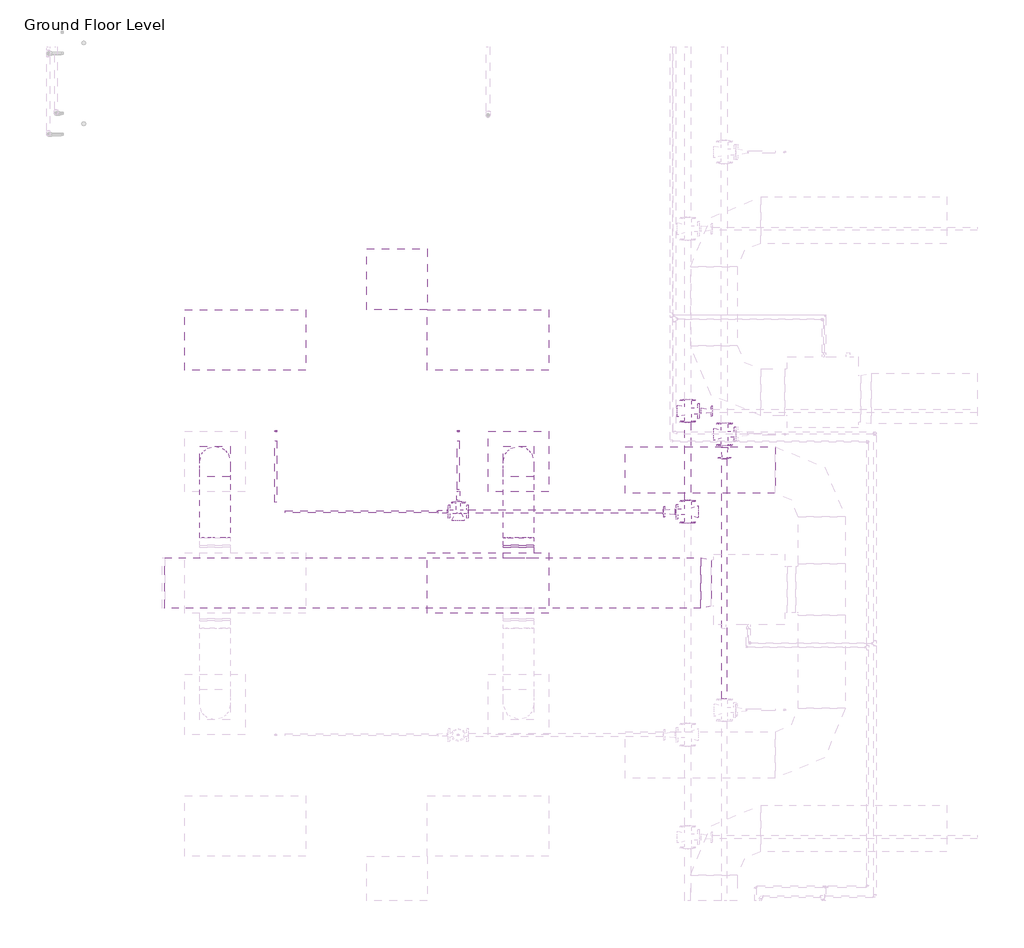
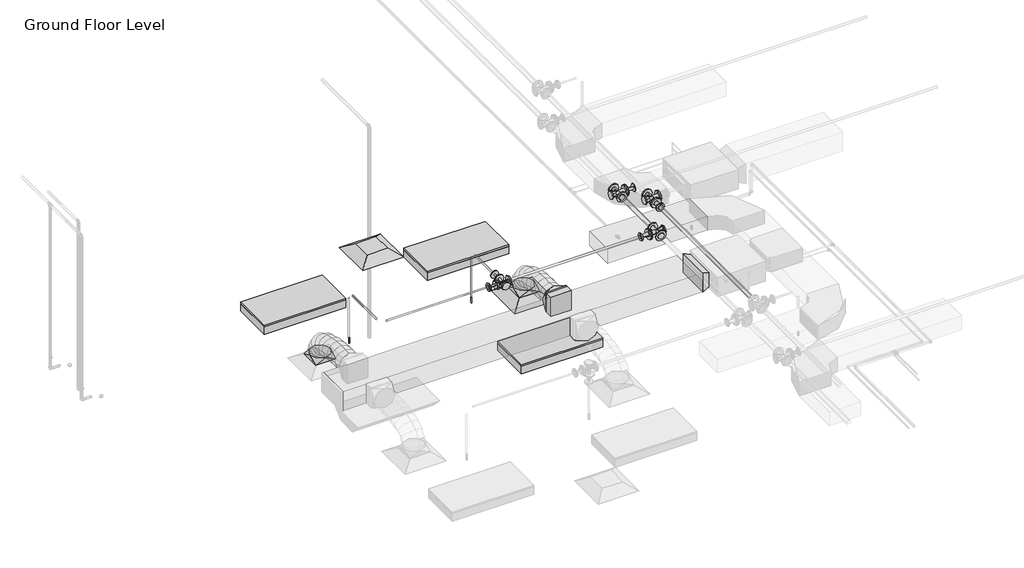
# One storey, part 61 of 74: 9 pipe fittings, 8 pipe segments, 5 duct fittings, 5 duct segments, 3 light fixtures, 2 air terminals, 2 fire suppression terminals.
"""IFC4 building model written with IfcOpenShell, lengths in millimetres."""

from ifc_helpers import new_model, si_unit, point, frame, frame_2d, origin, place, context, project, spatial, polyline, circle_curve, ellipse_curve, trimmed, segment, composite_curve, outline, extrude, transform, mapped, element, save
from ifc_brep_helpers import plane_surface, cylinder_surface, advanced_brep
from components import m_return_diffuser_600_x_600_face_300_x_300_connection_ff221211, m_rectangular_takeoff_standard_2be5eba1, m_rectangular_transition_angle_45_degree_2b595dfe, m_rectangular_to_round_transition_angle_45_degree_641efff0, m_sprinkler_dry_pendent_hosted_15_mm_dry_pendent_9bda8e11, m_troffer_light_parabolic_rectangular1_0600x1200mm_4_lamp_86473d4a, m_reducer_flanged_cs_class_150_standard_ccf252ad, m_reducer_flanged_cs_class_150_standard_3ab32b2b, m_reducer_flanged_cs_class_150_standard_a7631c35, m_tee_round_base_flanged_cs_class_150_standard_dd767e04, m_tee_round_base_flanged_cs_class_150_standard_7e5987a1

model = new_model("IFC4")

# Units and contexts
model_context = context("Model", 3, world=origin())
ifc_project = project(units=[si_unit("LENGTHUNIT", "METRE", prefix="MILLI")], contexts=[model_context])

# Site, building, storey
site = spatial("IfcSite", under=ifc_project)
building = spatial("IfcBuilding", under=site)
storey = spatial("IfcBuildingStorey", under=building, Name="Ground Floor Level", Elevation=900.0)

# Air terminals
placement = place(None, origin())
m_return_diffuser_600_x_600_face_300_x_300_connection_shape = m_return_diffuser_600_x_600_face_300_x_300_connection_ff221211(model_context)
element("IfcAirTerminal", 1, ObjectType="M_Return Diffuser : 600 x 600 Face 300 x 300 Connection", at=placement, inside=storey, context=model_context, shape_type="MappedRepresentation", body=[
    mapped(m_return_diffuser_600_x_600_face_300_x_300_connection_shape, transform((2762.7672395, 7135.2153534, 3650.0), x_axis=(1.0, 0.0, 0.0), y_axis=(0.0, 1.0, 0.0), z_axis=(0.0, 0.0, 1.0))),
])
element("IfcAirTerminal", 2, ObjectType="M_Supply Diffuser : 600 x 600 Face 300 x 300 Connection", at=placement, inside=storey, context=model_context, shape_type="MappedRepresentation", body=[
    mapped(m_return_diffuser_600_x_600_face_300_x_300_connection_shape, transform((3962.7672395, 5335.2153534, 3650.0), x_axis=(1.0, 0.0, 0.0), y_axis=(0.0, 1.0, 0.0), z_axis=(0.0, 0.0, 1.0))),
])

# Duct fittings
m_rectangular_takeoff_standard_shape = m_rectangular_takeoff_standard_2be5eba1(model_context)
element("IfcDuctFitting", 3, ObjectType="M_Rectangular Takeoff : Standard", at=placement, inside=storey, context=model_context, shape_type="MappedRepresentation", body=[
    mapped(m_rectangular_takeoff_standard_shape, transform((3962.7672395, 4385.0199167, 4099.9957478), x_axis=(0.0, 1.0, 0.0), y_axis=(1.0, 0.0, 0.0), z_axis=(0.0, 0.0, -1.0))),
])
m_rectangular_transition_angle_45_degree_shape = m_rectangular_transition_angle_45_degree_2b595dfe(model_context)
element("IfcDuctFitting", 4, ObjectType="M_Rectangular Transition - Angle : 45 Degree", at=placement, inside=storey, context=model_context, shape_type="MappedRepresentation", body=[
    mapped(m_rectangular_transition_angle_45_degree_shape, transform((5868.0139492, 4135.0199167, 4100.0), x_axis=(-1.0, 0.0, 0.0), y_axis=(0.0, -1.0, 0.0), z_axis=(0.0, 0.0, 1.0))),
])
m_rectangular_to_round_transition_angle_45_degree_shape = m_rectangular_to_round_transition_angle_45_degree_641efff0(model_context)
element("IfcDuctFitting", 5, ObjectType="M_Rectangular to Round Transition - Angle : 45 Degree", at=placement, inside=storey, context=model_context, shape_type="MappedRepresentation", body=[
    mapped(m_rectangular_to_round_transition_angle_45_degree_shape, transform((962.7672395, 5335.2153534, 3751.6), x_axis=(0.0, 0.0, 1.0), y_axis=(-1.0, 0.0, 0.0), z_axis=(0.0, -1.0, 0.0))),
])
element("IfcDuctFitting", 6, ObjectType="M_Rectangular to Round Transition - Angle : 45 Degree", at=placement, inside=storey, context=model_context, shape_type="MappedRepresentation", body=[
    mapped(m_rectangular_to_round_transition_angle_45_degree_shape, transform((3962.7672395, 5335.2153534, 3751.6), x_axis=(0.0, 0.0, 1.0), y_axis=(-1.0, 0.0, 0.0), z_axis=(0.0, -1.0, 0.0))),
])
element("IfcDuctFitting", 7, ObjectType="M_Rectangular to Round Transition - Angle : 45 Degree", at=placement, inside=storey, context=model_context, shape_type="MappedRepresentation", body=[
    mapped(m_rectangular_to_round_transition_angle_45_degree_shape, transform((3962.7672395, 4507.8751699, 4099.9957478), x_axis=(0.0, 1.0, 0.0), y_axis=(-1.0, 0.0, 0.0), z_axis=(0.0, 0.0, 1.0))),
])

# Duct segments
element("IfcDuctSegment", 8, ObjectType="Flex - Round", at=placement, inside=storey, context=model_context, shape_type="AdvancedBrep", body=[
    advanced_brep(
    [(1112.7672395, 5335.2153534, 3826.6), (962.7672395, 5185.2153534, 3826.6), (812.7672395, 5335.2153534, 3826.6), (962.7672395, 5485.2153534, 3826.6), (1112.7672395, 5335.2153534, 3857.9381871), (962.7672395, 5185.2153534, 3832.2943835), (812.7672395, 5335.2153534, 3857.9381871), (962.7672395, 5485.2153534, 3883.5819907), (1112.7672395, 5318.1991066, 3906.2507795), (962.7672395, 5184.4618414, 3834.4337577), (812.7672395, 5318.1991066, 3906.2507795), (962.7672395, 5451.9363718, 3978.0678013), (1112.7672395, 5271.0143708, 3968.7107945), (962.7672395, 5166.8104112, 3857.7995469), (812.7672395, 5271.0143708, 3968.7107945), (962.7672395, 5375.2183303, 4079.622042), (1112.7672395, 5199.4571526, 4016.0681304), (962.7672395, 5130.5261535, 3881.8128585), (812.7672395, 5199.4571526, 4016.0681304), (962.7672395, 5268.3881516, 4150.3234022), (1112.7672395, 5109.3234587, 4050.4108726), (962.7672395, 5065.7660366, 3906.4877598), (812.7672395, 5109.3234587, 4050.4108726), (962.7672395, 5152.8808808, 4194.3339853), (1112.7672395, 5006.4092959, 4073.8271066), (962.7672395, 4979.8515391, 3926.0360311), (812.7672395, 5006.4092959, 4073.8271066), (962.7672395, 5032.9670528, 4221.618182), (1112.7672395, 4896.5106709, 4088.4049176), (962.7672395, 4881.3625214, 3939.1003829), (812.7672395, 4896.5106709, 4088.4049176), (962.7672395, 4911.6588205, 4237.7094524), (1112.7672395, 4785.4235904, 4096.2323912), (962.7672395, 4777.9204039, 3946.3891733), (812.7672395, 4785.4235904, 4096.2323912), (962.7672395, 4792.9267769, 4246.0756092), (1112.7672395, 4678.9440611, 4099.3976128), (962.7672395, 4676.2538265, 3949.4113245), (812.7672395, 4678.9440611, 4099.3976128), (962.7672395, 4681.6342958, 4249.383901), (1112.7672395, 4582.8680897, 4099.9886676), (962.7672395, 4583.7908652, 4249.9858292), (812.7672395, 4582.8680897, 4099.9886676), (962.7672395, 4581.9453142, 3949.991506)],
    [
        (0, 1, circle_curve(frame((962.7672395, 5335.2153534, 3826.6), z_axis=(0.0, 0.0, -1.0), x_axis=(1.0, 0.0, 0.0)), 150.0)),
        (1, 2, circle_curve(frame((962.7672395, 5335.2153534, 3826.6), z_axis=(0.0, 0.0, -1.0), x_axis=(1.0, 0.0, 0.0)), 150.0)),
        (2, 3, circle_curve(frame((962.7672395, 5335.2153534, 3826.6), z_axis=(0.0, 0.0, -1.0), x_axis=(1.0, 0.0, 0.0)), 150.0)),
        (3, 0, circle_curve(frame((962.7672395, 5335.2153534, 3826.6), z_axis=(0.0, 0.0, -1.0), x_axis=(1.0, 0.0, 0.0)), 150.0)),
        (0, 4),
        (4, 5, ellipse_curve(frame((962.7672395, 5335.2153534, 3857.9381871), z_axis=(0.0, 0.16851385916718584, -0.9856992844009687), x_axis=(0.0, -0.9856992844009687, -0.16851385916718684)), 152.176229, 150.0)),
        (5, 1),
        (5, 6, ellipse_curve(frame((962.7672395, 5335.2153534, 3857.9381871), z_axis=(0.0, 0.16851385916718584, -0.9856992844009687), x_axis=(0.0, -0.9856992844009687, -0.16851385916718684)), 152.176229, 150.0)),
        (6, 2),
        (6, 7, ellipse_curve(frame((962.7672395, 5335.2153534, 3857.9381871), z_axis=(0.0, 0.16851385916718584, -0.9856992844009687), x_axis=(0.0, -0.9856992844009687, -0.16851385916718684)), 152.176229, 150.0)),
        (7, 3),
        (7, 4, ellipse_curve(frame((962.7672395, 5335.2153534, 3857.9381871), z_axis=(0.0, 0.16851385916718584, -0.9856992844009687), x_axis=(0.0, -0.9856992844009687, -0.16851385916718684)), 152.176229, 150.0)),
        (4, 8),
        (8, 9, ellipse_curve(frame((962.7672395, 5318.1991066, 3906.2507795), z_axis=(0.0, 0.4731018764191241, -0.8810077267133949), x_axis=(0.0, -0.8810077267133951, -0.4731018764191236)), 151.8003318, 150.0)),
        (9, 5),
        (9, 10, ellipse_curve(frame((962.7672395, 5318.1991066, 3906.2507795), z_axis=(0.0, 0.4731018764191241, -0.8810077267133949), x_axis=(0.0, -0.8810077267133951, -0.4731018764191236)), 151.8003318, 150.0)),
        (10, 6),
        (10, 11, ellipse_curve(frame((962.7672395, 5318.1991066, 3906.2507795), z_axis=(0.0, 0.4731018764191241, -0.8810077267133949), x_axis=(0.0, -0.8810077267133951, -0.4731018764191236)), 151.8003318, 150.0)),
        (11, 7),
        (11, 8, ellipse_curve(frame((962.7672395, 5318.1991066, 3906.2507795), z_axis=(0.0, 0.4731018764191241, -0.8810077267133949), x_axis=(0.0, -0.8810077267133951, -0.4731018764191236)), 151.8003318, 150.0)),
        (8, 12),
        (12, 13, ellipse_curve(frame((962.7672395, 5271.0143708, 3968.7107945), z_axis=(0.0, 0.728800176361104, -0.6847264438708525), x_axis=(0.0, -0.6847264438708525, -0.7288001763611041)), 152.1833434, 150.0)),
        (13, 9),
        (13, 14, ellipse_curve(frame((962.7672395, 5271.0143708, 3968.7107945), z_axis=(0.0, 0.728800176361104, -0.6847264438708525), x_axis=(0.0, -0.6847264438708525, -0.7288001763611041)), 152.1833434, 150.0)),
        (14, 10),
        (14, 15, ellipse_curve(frame((962.7672395, 5271.0143708, 3968.7107945), z_axis=(0.0, 0.728800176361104, -0.6847264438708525), x_axis=(0.0, -0.6847264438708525, -0.7288001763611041)), 152.1833434, 150.0)),
        (15, 11),
        (15, 12, ellipse_curve(frame((962.7672395, 5271.0143708, 3968.7107945), z_axis=(0.0, 0.728800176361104, -0.6847264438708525), x_axis=(0.0, -0.6847264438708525, -0.7288001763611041)), 152.1833434, 150.0)),
        (12, 16),
        (16, 17, ellipse_curve(frame((962.7672395, 5199.4571526, 4016.0681304), z_axis=(0.0, 0.8895963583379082, -0.456747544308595), x_axis=(0.0, -0.4567475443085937, -0.8895963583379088)), 150.9170655, 150.0)),
        (17, 13),
        (17, 18, ellipse_curve(frame((962.7672395, 5199.4571526, 4016.0681304), z_axis=(0.0, 0.8895963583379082, -0.456747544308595), x_axis=(0.0, -0.4567475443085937, -0.8895963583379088)), 150.9170655, 150.0)),
        (18, 14),
        (18, 19, ellipse_curve(frame((962.7672395, 5199.4571526, 4016.0681304), z_axis=(0.0, 0.8895963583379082, -0.456747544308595), x_axis=(0.0, -0.4567475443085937, -0.8895963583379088)), 150.9170655, 150.0)),
        (19, 15),
        (19, 16, ellipse_curve(frame((962.7672395, 5199.4571526, 4016.0681304), z_axis=(0.0, 0.8895963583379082, -0.456747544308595), x_axis=(0.0, -0.4567475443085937, -0.8895963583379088)), 150.9170655, 150.0)),
        (16, 20),
        (20, 21, ellipse_curve(frame((962.7672395, 5109.3234587, 4050.4108726), z_axis=(0.0, 0.9571270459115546, -0.2896684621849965), x_axis=(0.0, -0.28966846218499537, -0.957127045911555)), 150.3699152, 150.0)),
        (21, 17),
        (21, 22, ellipse_curve(frame((962.7672395, 5109.3234587, 4050.4108726), z_axis=(0.0, 0.9571270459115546, -0.2896684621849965), x_axis=(0.0, -0.28966846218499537, -0.957127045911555)), 150.3699152, 150.0)),
        (22, 18),
        (22, 23, ellipse_curve(frame((962.7672395, 5109.3234587, 4050.4108726), z_axis=(0.0, 0.9571270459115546, -0.2896684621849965), x_axis=(0.0, -0.28966846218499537, -0.957127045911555)), 150.3699152, 150.0)),
        (23, 19),
        (23, 20, ellipse_curve(frame((962.7672395, 5109.3234587, 4050.4108726), z_axis=(0.0, 0.9571270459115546, -0.2896684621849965), x_axis=(0.0, -0.28966846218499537, -0.957127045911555)), 150.3699152, 150.0)),
        (20, 24),
        (24, 25, ellipse_curve(frame((962.7672395, 5006.4092959, 4073.8271066), z_axis=(0.0, 0.984235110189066, -0.17686505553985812), x_axis=(0.0, -0.17686505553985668, -0.9842351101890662)), 150.1583045, 150.0)),
        (25, 21),
        (25, 26, ellipse_curve(frame((962.7672395, 5006.4092959, 4073.8271066), z_axis=(0.0, 0.984235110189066, -0.17686505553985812), x_axis=(0.0, -0.17686505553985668, -0.9842351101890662)), 150.1583045, 150.0)),
        (26, 22),
        (26, 27, ellipse_curve(frame((962.7672395, 5006.4092959, 4073.8271066), z_axis=(0.0, 0.984235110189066, -0.17686505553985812), x_axis=(0.0, -0.17686505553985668, -0.9842351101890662)), 150.1583045, 150.0)),
        (27, 23),
        (27, 24, ellipse_curve(frame((962.7672395, 5006.4092959, 4073.8271066), z_axis=(0.0, 0.984235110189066, -0.17686505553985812), x_axis=(0.0, -0.17686505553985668, -0.9842351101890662)), 150.1583045, 150.0)),
        (24, 28),
        (28, 29, ellipse_curve(frame((962.7672395, 4896.5106709, 4088.4049176), z_axis=(0.0, 0.9948925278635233, -0.1009398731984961), x_axis=(0.0, -0.10093987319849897, -0.994892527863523)), 150.0710183, 150.0)),
        (29, 25),
        (29, 30, ellipse_curve(frame((962.7672395, 4896.5106709, 4088.4049176), z_axis=(0.0, 0.9948925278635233, -0.1009398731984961), x_axis=(0.0, -0.10093987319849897, -0.994892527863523)), 150.0710183, 150.0)),
        (30, 26),
        (30, 31, ellipse_curve(frame((962.7672395, 4896.5106709, 4088.4049176), z_axis=(0.0, 0.9948925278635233, -0.1009398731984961), x_axis=(0.0, -0.10093987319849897, -0.994892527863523)), 150.0710183, 150.0)),
        (31, 27),
        (31, 28, ellipse_curve(frame((962.7672395, 4896.5106709, 4088.4049176), z_axis=(0.0, 0.9948925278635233, -0.1009398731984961), x_axis=(0.0, -0.10093987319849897, -0.994892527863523)), 150.0710183, 150.0)),
        (28, 32),
        (32, 33, ellipse_curve(frame((962.7672395, 4785.4235904, 4096.2323912), z_axis=(0.0, 0.9987486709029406, -0.05001092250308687), x_axis=(0.0, -0.05001092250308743, -0.9987486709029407)), 150.0309561, 150.0)),
        (33, 29),
        (33, 34, ellipse_curve(frame((962.7672395, 4785.4235904, 4096.2323912), z_axis=(0.0, 0.9987486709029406, -0.05001092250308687), x_axis=(0.0, -0.05001092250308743, -0.9987486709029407)), 150.0309561, 150.0)),
        (34, 30),
        (34, 35, ellipse_curve(frame((962.7672395, 4785.4235904, 4096.2323912), z_axis=(0.0, 0.9987486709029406, -0.05001092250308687), x_axis=(0.0, -0.05001092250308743, -0.9987486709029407)), 150.0309561, 150.0)),
        (35, 31),
        (35, 32, ellipse_curve(frame((962.7672395, 4785.4235904, 4096.2323912), z_axis=(0.0, 0.9987486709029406, -0.05001092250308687), x_axis=(0.0, -0.05001092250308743, -0.9987486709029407)), 150.0309561, 150.0)),
        (32, 36),
        (36, 37, ellipse_curve(frame((962.7672395, 4678.9440611, 4099.3976128), z_axis=(0.0, 0.9998391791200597, -0.017933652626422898), x_axis=(0.0, -0.017933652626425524, -0.9998391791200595)), 150.0104131, 150.0)),
        (37, 33),
        (37, 38, ellipse_curve(frame((962.7672395, 4678.9440611, 4099.3976128), z_axis=(0.0, 0.9998391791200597, -0.017933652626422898), x_axis=(0.0, -0.017933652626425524, -0.9998391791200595)), 150.0104131, 150.0)),
        (38, 34),
        (38, 39, ellipse_curve(frame((962.7672395, 4678.9440611, 4099.3976128), z_axis=(0.0, 0.9998391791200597, -0.017933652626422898), x_axis=(0.0, -0.017933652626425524, -0.9998391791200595)), 150.0104131, 150.0)),
        (39, 35),
        (39, 36, ellipse_curve(frame((962.7672395, 4678.9440611, 4099.3976128), z_axis=(0.0, 0.9998391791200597, -0.017933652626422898), x_axis=(0.0, -0.017933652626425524, -0.9998391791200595)), 150.0104131, 150.0)),
        (40, 41, circle_curve(frame((962.7672395, 4582.8680897, 4099.9886676), z_axis=(0.0, -0.9999810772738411, 0.006151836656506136), x_axis=(1.0, 0.0, 0.0)), 150.0)),
        (41, 42, circle_curve(frame((962.7672395, 4582.8680897, 4099.9886676), z_axis=(0.0, -0.9999810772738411, 0.006151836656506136), x_axis=(1.0, 0.0, 0.0)), 150.0)),
        (42, 43, circle_curve(frame((962.7672395, 4582.8680897, 4099.9886676), z_axis=(0.0, -0.9999810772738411, 0.006151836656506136), x_axis=(1.0, 0.0, 0.0)), 150.0)),
        (43, 40, circle_curve(frame((962.7672395, 4582.8680897, 4099.9886676), z_axis=(0.0, -0.9999810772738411, 0.006151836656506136), x_axis=(1.0, 0.0, 0.0)), 150.0)),
        (36, 40),
        (43, 37),
        (42, 38),
        (41, 39),
    ],
    [
        plane_surface(frame((962.7672395, 5185.2153534, 3826.6), z_axis=(0.0, 0.0, -1.0), x_axis=(1.0, 0.0, 0.0))),
        cylinder_surface(frame((962.7672395, 5335.2153534, 3826.6), z_axis=(0.0, 0.0, -1.0), x_axis=(1.0, 0.0, 0.0)), 150.0),
        cylinder_surface(frame((962.7672395, 5335.2153534, 3857.9381871), z_axis=(0.0, 0.33220798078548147, -0.9432061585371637), x_axis=(1.0, 0.0, 0.0)), 150.0),
        cylinder_surface(frame((962.7672395, 5318.1991066, 3906.2507795), z_axis=(0.0, 0.6027739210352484, -0.7979120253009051), x_axis=(1.0, 0.0, 0.0)), 150.0),
        cylinder_surface(frame((962.7672395, 5271.0143708, 3968.7107945), z_axis=(0.0, 0.8339145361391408, -0.5518936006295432), x_axis=(1.0, 0.0, 0.0)), 150.0),
        cylinder_surface(frame((962.7672395, 5199.4571526, 4016.0681304), z_axis=(0.0, 0.9344667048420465, -0.35605052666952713), x_axis=(1.0, 0.0, 0.0)), 150.0),
        cylinder_surface(frame((962.7672395, 5109.3234587, 4050.4108726), z_axis=(0.0, 0.9750782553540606, -0.2218612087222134), x_axis=(1.0, 0.0, 0.0)), 150.0),
        cylinder_surface(frame((962.7672395, 5006.4092959, 4073.8271066), z_axis=(0.0, 0.9913167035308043, -0.13149598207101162), x_axis=(1.0, 0.0, 0.0)), 150.0),
        cylinder_surface(frame((962.7672395, 4896.5106709, 4088.4049176), z_axis=(0.0, 0.9975267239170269, -0.0702882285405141), x_axis=(1.0, 0.0, 0.0)), 150.0),
        cylinder_surface(frame((962.7672395, 4785.4235904, 4096.2323912), z_axis=(0.0, 0.9995584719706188, -0.029712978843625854), x_axis=(1.0, 0.0, 0.0)), 150.0),
        plane_surface(frame((962.7672395, 4581.9453142, 3949.991506), z_axis=(0.0, -0.9999810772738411, 0.006151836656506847), x_axis=(1.0, 0.0, 0.0))),
        cylinder_surface(frame((962.7672395, 4678.9440611, 4099.3976128), z_axis=(0.0, 0.9999810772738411, -0.006151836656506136), x_axis=(1.0, 0.0, 0.0)), 150.0),
    ],
    [
        (0, [[1, 2, 3, 4]]),
        (1, [[-1, 5, 6, 7]]),
        (1, [[-2, -7, 8, 9]]),
        (1, [[-3, -9, 10, 11]]),
        (1, [[-4, -11, 12, -5]]),
        (2, [[-6, 13, 14, 15]]),
        (2, [[-8, -15, 16, 17]]),
        (2, [[-10, -17, 18, 19]]),
        (2, [[-12, -19, 20, -13]]),
        (3, [[-14, 21, 22, 23]]),
        (3, [[-16, -23, 24, 25]]),
        (3, [[-18, -25, 26, 27]]),
        (3, [[-20, -27, 28, -21]]),
        (4, [[-22, 29, 30, 31]]),
        (4, [[-24, -31, 32, 33]]),
        (4, [[-26, -33, 34, 35]]),
        (4, [[-28, -35, 36, -29]]),
        (5, [[-30, 37, 38, 39]]),
        (5, [[-32, -39, 40, 41]]),
        (5, [[-34, -41, 42, 43]]),
        (5, [[-36, -43, 44, -37]]),
        (6, [[-38, 45, 46, 47]]),
        (6, [[-40, -47, 48, 49]]),
        (6, [[-42, -49, 50, 51]]),
        (6, [[-44, -51, 52, -45]]),
        (7, [[-46, 53, 54, 55]]),
        (7, [[-48, -55, 56, 57]]),
        (7, [[-50, -57, 58, 59]]),
        (7, [[-52, -59, 60, -53]]),
        (8, [[-54, 61, 62, 63]]),
        (8, [[-56, -63, 64, 65]]),
        (8, [[-58, -65, 66, 67]]),
        (8, [[-60, -67, 68, -61]]),
        (9, [[-62, 69, 70, 71]]),
        (9, [[-64, -71, 72, 73]]),
        (9, [[-66, -73, 74, 75]]),
        (9, [[-68, -75, 76, -69]]),
        (10, [[77, 78, 79, 80]]),
        (11, [[-70, 81, -80, 82]]),
        (11, [[-72, -82, -79, 83]]),
        (11, [[-74, -83, -78, 84]]),
        (11, [[-76, -84, -77, -81]]),
    ],
),
])
element("IfcDuctSegment", 9, ObjectType="Flex - Round", at=placement, inside=storey, context=model_context, shape_type="AdvancedBrep", body=[
    advanced_brep(
    [(4112.7672395, 5335.2153534, 3826.6), (3962.7672395, 5185.2153534, 3826.6), (3812.7672395, 5335.2153534, 3826.6), (3962.7672395, 5485.2153534, 3826.6), (4112.7672395, 5335.2153534, 3857.9378899), (3962.7672395, 5185.2153534, 3832.2944495), (3812.7672395, 5335.2153534, 3857.9378899), (3962.7672395, 5485.2153534, 3883.5813304), (4112.7672395, 5318.1993029, 3906.2506504), (3962.7672395, 5184.4615918, 3834.4345644), (3812.7672395, 5318.1993029, 3906.2506504), (3962.7672395, 5451.9370141, 3978.0667363), (4112.7672395, 5271.0151016, 3968.7111185), (3962.7672395, 5166.8099301, 3857.8010943), (3812.7672395, 5271.0151016, 3968.7111185), (3962.7672395, 5375.220273, 4079.6211427), (4112.7672395, 5199.4586743, 4016.0693384), (3962.7672395, 5130.5257656, 3881.8150579), (3812.7672395, 5199.4586743, 4016.0693384), (3962.7672395, 5268.3915831, 4150.3236188), (4112.7672395, 5109.3259463, 4050.413244), (3962.7672395, 5065.7664368, 3906.4907592), (3812.7672395, 5109.3259463, 4050.413244), (3962.7672395, 5152.8854558, 4194.3357287), (4112.7672395, 5006.4128425, 4073.8307693), (3962.7672395, 4979.8531069, 3926.0400441), (3812.7672395, 5006.4128425, 4073.8307693), (3962.7672395, 5032.9725781, 4221.6214946), (4112.7672395, 4896.5152879, 4088.4098484), (3962.7672395, 4881.3654185, 3939.1054831), (3812.7672395, 4896.5152879, 4088.4098484), (3962.7672395, 4911.6651573, 4237.7142137), (4112.7672395, 4785.4292075, 4096.2384151), (3962.7672395, 4777.924683, 3946.3952596), (3812.7672395, 4785.4292075, 4096.2384151), (3962.7672395, 4792.9337321, 4246.0815706), (4112.7672395, 4678.9505265, 4099.4044036), (3962.7672395, 4676.2595056, 3949.4181256), (3812.7672395, 4678.9505265, 4099.4044036), (3962.7672395, 4681.6415474, 4249.3906816), (4112.7672395, 4582.8751699, 4099.9957478), (3962.7672395, 4583.7984029, 4249.9929065), (3812.7672395, 4582.8751699, 4099.9957478), (3962.7672395, 4581.9519368, 3949.998589)],
    [
        (0, 1, circle_curve(frame((3962.7672395, 5335.2153534, 3826.6), z_axis=(0.0, 0.0, -1.0), x_axis=(1.0, 0.0, 0.0)), 150.0)),
        (1, 2, circle_curve(frame((3962.7672395, 5335.2153534, 3826.6), z_axis=(0.0, 0.0, -1.0), x_axis=(1.0, 0.0, 0.0)), 150.0)),
        (2, 3, circle_curve(frame((3962.7672395, 5335.2153534, 3826.6), z_axis=(0.0, 0.0, -1.0), x_axis=(1.0, 0.0, 0.0)), 150.0)),
        (3, 0, circle_curve(frame((3962.7672395, 5335.2153534, 3826.6), z_axis=(0.0, 0.0, -1.0), x_axis=(1.0, 0.0, 0.0)), 150.0)),
        (0, 4),
        (4, 5, ellipse_curve(frame((3962.7672395, 5335.2153534, 3857.9378899), z_axis=(0.0, 0.1685115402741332, -0.9856996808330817), x_axis=(0.0, -0.9856996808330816, -0.16851154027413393)), 152.1761678, 150.0)),
        (5, 1),
        (5, 6, ellipse_curve(frame((3962.7672395, 5335.2153534, 3857.9378899), z_axis=(0.0, 0.1685115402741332, -0.9856996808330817), x_axis=(0.0, -0.9856996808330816, -0.16851154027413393)), 152.1761678, 150.0)),
        (6, 2),
        (6, 7, ellipse_curve(frame((3962.7672395, 5335.2153534, 3857.9378899), z_axis=(0.0, 0.1685115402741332, -0.9856996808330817), x_axis=(0.0, -0.9856996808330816, -0.16851154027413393)), 152.1761678, 150.0)),
        (7, 3),
        (7, 4, ellipse_curve(frame((3962.7672395, 5335.2153534, 3857.9378899), z_axis=(0.0, 0.1685115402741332, -0.9856996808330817), x_axis=(0.0, -0.9856996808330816, -0.16851154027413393)), 152.1761678, 150.0)),
        (4, 8),
        (8, 9, ellipse_curve(frame((3962.7672395, 5318.1993029, 3906.2506504), z_axis=(0.0, 0.47309586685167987, -0.8810109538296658), x_axis=(0.0, -0.8810109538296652, -0.4730958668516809)), 151.8002819, 150.0)),
        (9, 5),
        (9, 10, ellipse_curve(frame((3962.7672395, 5318.1993029, 3906.2506504), z_axis=(0.0, 0.47309586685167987, -0.8810109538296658), x_axis=(0.0, -0.8810109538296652, -0.4730958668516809)), 151.8002819, 150.0)),
        (10, 6),
        (10, 11, ellipse_curve(frame((3962.7672395, 5318.1993029, 3906.2506504), z_axis=(0.0, 0.47309586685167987, -0.8810109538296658), x_axis=(0.0, -0.8810109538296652, -0.4730958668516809)), 151.8002819, 150.0)),
        (11, 7),
        (11, 8, ellipse_curve(frame((3962.7672395, 5318.1993029, 3906.2506504), z_axis=(0.0, 0.47309586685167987, -0.8810109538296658), x_axis=(0.0, -0.8810109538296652, -0.4730958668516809)), 151.8002819, 150.0)),
        (8, 12),
        (12, 13, ellipse_curve(frame((3962.7672395, 5271.0151016, 3968.7111185), z_axis=(0.0, 0.7287924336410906, -0.6847346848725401), x_axis=(0.0, -0.6847346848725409, -0.7287924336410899)), 152.1832817, 150.0)),
        (13, 9),
        (13, 14, ellipse_curve(frame((3962.7672395, 5271.0151016, 3968.7111185), z_axis=(0.0, 0.7287924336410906, -0.6847346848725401), x_axis=(0.0, -0.6847346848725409, -0.7287924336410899)), 152.1832817, 150.0)),
        (14, 10),
        (14, 15, ellipse_curve(frame((3962.7672395, 5271.0151016, 3968.7111185), z_axis=(0.0, 0.7287924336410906, -0.6847346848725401), x_axis=(0.0, -0.6847346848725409, -0.7287924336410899)), 152.1832817, 150.0)),
        (15, 11),
        (15, 12, ellipse_curve(frame((3962.7672395, 5271.0151016, 3968.7111185), z_axis=(0.0, 0.7287924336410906, -0.6847346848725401), x_axis=(0.0, -0.6847346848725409, -0.7287924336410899)), 152.1832817, 150.0)),
        (12, 16),
        (16, 17, ellipse_curve(frame((3962.7672395, 5199.4586743, 4016.0693384), z_axis=(0.0, 0.8895898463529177, -0.45676022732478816), x_axis=(0.0, -0.456760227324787, -0.8895898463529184)), 150.9170558, 150.0)),
        (17, 13),
        (17, 18, ellipse_curve(frame((3962.7672395, 5199.4586743, 4016.0693384), z_axis=(0.0, 0.8895898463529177, -0.45676022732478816), x_axis=(0.0, -0.456760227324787, -0.8895898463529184)), 150.9170558, 150.0)),
        (18, 14),
        (18, 19, ellipse_curve(frame((3962.7672395, 5199.4586743, 4016.0693384), z_axis=(0.0, 0.8895898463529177, -0.45676022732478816), x_axis=(0.0, -0.456760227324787, -0.8895898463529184)), 150.9170558, 150.0)),
        (19, 15),
        (19, 16, ellipse_curve(frame((3962.7672395, 5199.4586743, 4016.0693384), z_axis=(0.0, 0.8895898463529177, -0.45676022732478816), x_axis=(0.0, -0.456760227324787, -0.8895898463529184)), 150.9170558, 150.0)),
        (16, 20),
        (20, 21, ellipse_curve(frame((3962.7672395, 5109.3259463, 4050.413244), z_axis=(0.0, 0.9571228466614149, -0.28968233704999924), x_axis=(0.0, -0.28968233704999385, -0.9571228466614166)), 150.3699188, 150.0)),
        (21, 17),
        (21, 22, ellipse_curve(frame((3962.7672395, 5109.3259463, 4050.413244), z_axis=(0.0, 0.9571228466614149, -0.28968233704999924), x_axis=(0.0, -0.28968233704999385, -0.9571228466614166)), 150.3699188, 150.0)),
        (22, 18),
        (22, 23, ellipse_curve(frame((3962.7672395, 5109.3259463, 4050.413244), z_axis=(0.0, 0.9571228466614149, -0.28968233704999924), x_axis=(0.0, -0.28968233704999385, -0.9571228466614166)), 150.3699188, 150.0)),
        (23, 19),
        (23, 20, ellipse_curve(frame((3962.7672395, 5109.3259463, 4050.413244), z_axis=(0.0, 0.9571228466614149, -0.28968233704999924), x_axis=(0.0, -0.28968233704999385, -0.9571228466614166)), 150.3699188, 150.0)),
        (20, 24),
        (24, 25, ellipse_curve(frame((3962.7672395, 5006.4128425, 4073.8307693), z_axis=(0.0, 0.9842327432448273, -0.17687822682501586), x_axis=(0.0, -0.176878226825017, -0.9842327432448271)), 150.1583099, 150.0)),
        (25, 21),
        (25, 26, ellipse_curve(frame((3962.7672395, 5006.4128425, 4073.8307693), z_axis=(0.0, 0.9842327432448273, -0.17687822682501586), x_axis=(0.0, -0.176878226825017, -0.9842327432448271)), 150.1583099, 150.0)),
        (26, 22),
        (26, 27, ellipse_curve(frame((3962.7672395, 5006.4128425, 4073.8307693), z_axis=(0.0, 0.9842327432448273, -0.17687822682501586), x_axis=(0.0, -0.176878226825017, -0.9842327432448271)), 150.1583099, 150.0)),
        (27, 23),
        (27, 24, ellipse_curve(frame((3962.7672395, 5006.4128425, 4073.8307693), z_axis=(0.0, 0.9842327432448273, -0.17687822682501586), x_axis=(0.0, -0.176878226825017, -0.9842327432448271)), 150.1583099, 150.0)),
        (24, 28),
        (28, 29, ellipse_curve(frame((3962.7672395, 4896.5152879, 4088.4098484), z_axis=(0.0, 0.9948913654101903, -0.10095133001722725), x_axis=(0.0, -0.10095133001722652, -0.9948913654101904)), 150.0710233, 150.0)),
        (29, 25),
        (29, 30, ellipse_curve(frame((3962.7672395, 4896.5152879, 4088.4098484), z_axis=(0.0, 0.9948913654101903, -0.10095133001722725), x_axis=(0.0, -0.10095133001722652, -0.9948913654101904)), 150.0710233, 150.0)),
        (30, 26),
        (30, 31, ellipse_curve(frame((3962.7672395, 4896.5152879, 4088.4098484), z_axis=(0.0, 0.9948913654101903, -0.10095133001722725), x_axis=(0.0, -0.10095133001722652, -0.9948913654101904)), 150.0710233, 150.0)),
        (31, 27),
        (31, 28, ellipse_curve(frame((3962.7672395, 4896.5152879, 4088.4098484), z_axis=(0.0, 0.9948913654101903, -0.10095133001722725), x_axis=(0.0, -0.10095133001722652, -0.9948913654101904)), 150.0710233, 150.0)),
        (28, 32),
        (32, 33, ellipse_curve(frame((3962.7672395, 4785.4292075, 4096.2384151), z_axis=(0.0, 0.9987482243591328, -0.05001983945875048), x_axis=(0.0, -0.05001983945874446, -0.9987482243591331)), 150.0309606, 150.0)),
        (33, 29),
        (33, 34, ellipse_curve(frame((3962.7672395, 4785.4292075, 4096.2384151), z_axis=(0.0, 0.9987482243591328, -0.05001983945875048), x_axis=(0.0, -0.05001983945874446, -0.9987482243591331)), 150.0309606, 150.0)),
        (34, 30),
        (34, 35, ellipse_curve(frame((3962.7672395, 4785.4292075, 4096.2384151), z_axis=(0.0, 0.9987482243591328, -0.05001983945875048), x_axis=(0.0, -0.05001983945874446, -0.9987482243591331)), 150.0309606, 150.0)),
        (35, 31),
        (35, 32, ellipse_curve(frame((3962.7672395, 4785.4292075, 4096.2384151), z_axis=(0.0, 0.9987482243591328, -0.05001983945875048), x_axis=(0.0, -0.05001983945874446, -0.9987482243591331)), 150.0309606, 150.0)),
        (32, 36),
        (36, 37, ellipse_curve(frame((3962.7672395, 4678.9505265, 4099.4044036), z_axis=(0.0, 0.9998390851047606, -0.017938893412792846), x_axis=(0.0, -0.01793889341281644, -0.99983908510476)), 150.0104169, 150.0)),
        (37, 33),
        (37, 38, ellipse_curve(frame((3962.7672395, 4678.9505265, 4099.4044036), z_axis=(0.0, 0.9998390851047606, -0.017938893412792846), x_axis=(0.0, -0.01793889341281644, -0.99983908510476)), 150.0104169, 150.0)),
        (38, 34),
        (38, 39, ellipse_curve(frame((3962.7672395, 4678.9505265, 4099.4044036), z_axis=(0.0, 0.9998390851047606, -0.017938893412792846), x_axis=(0.0, -0.01793889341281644, -0.99983908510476)), 150.0104169, 150.0)),
        (39, 35),
        (39, 36, ellipse_curve(frame((3962.7672395, 4678.9505265, 4099.4044036), z_axis=(0.0, 0.9998390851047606, -0.017938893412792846), x_axis=(0.0, -0.01793889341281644, -0.99983908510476)), 150.0104169, 150.0)),
        (40, 41, circle_curve(frame((3962.7672395, 4582.8751699, 4099.9957478), z_axis=(0.0, -0.9999810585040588, 0.006154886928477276), x_axis=(1.0, 0.0, 0.0)), 150.0)),
        (41, 42, circle_curve(frame((3962.7672395, 4582.8751699, 4099.9957478), z_axis=(0.0, -0.9999810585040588, 0.006154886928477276), x_axis=(1.0, 0.0, 0.0)), 150.0)),
        (42, 43, circle_curve(frame((3962.7672395, 4582.8751699, 4099.9957478), z_axis=(0.0, -0.9999810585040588, 0.006154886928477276), x_axis=(1.0, 0.0, 0.0)), 150.0)),
        (43, 40, circle_curve(frame((3962.7672395, 4582.8751699, 4099.9957478), z_axis=(0.0, -0.9999810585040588, 0.006154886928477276), x_axis=(1.0, 0.0, 0.0)), 150.0)),
        (36, 40),
        (43, 37),
        (42, 38),
        (41, 39),
    ],
    [
        plane_surface(frame((3962.7672395, 5185.2153534, 3826.6), z_axis=(0.0, 0.0, -1.0), x_axis=(1.0, 0.0, 0.0))),
        cylinder_surface(frame((3962.7672395, 5335.2153534, 3826.6), z_axis=(0.0, 0.0, -1.0), x_axis=(1.0, 0.0, 0.0)), 150.0),
        cylinder_surface(frame((3962.7672395, 5335.2153534, 3857.9378899), z_axis=(0.0, 0.3322035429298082, -0.9432077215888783), x_axis=(1.0, 0.0, 0.0)), 150.0),
        cylinder_surface(frame((3962.7672395, 5318.1993029, 3906.2506504), z_axis=(0.0, 0.6027667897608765, -0.797917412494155), x_axis=(1.0, 0.0, 0.0)), 150.0),
        cylinder_surface(frame((3962.7672395, 5271.0151016, 3968.7111185), z_axis=(0.0, 0.8339069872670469, -0.5519050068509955), x_axis=(1.0, 0.0, 0.0)), 150.0),
        cylinder_surface(frame((3962.7672395, 5199.4586743, 4016.0693384), z_axis=(0.0, 0.934461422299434, -0.35606439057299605), x_axis=(1.0, 0.0, 0.0)), 150.0),
        cylinder_surface(frame((3962.7672395, 5109.3259463, 4050.413244), z_axis=(0.0, 0.9750751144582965, -0.22187501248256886), x_axis=(1.0, 0.0, 0.0)), 150.0),
        cylinder_surface(frame((3962.7672395, 5006.4128425, 4073.8307693), z_axis=(0.0, 0.9913150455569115, -0.1315084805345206), x_axis=(1.0, 0.0, 0.0)), 150.0),
        cylinder_surface(frame((3962.7672395, 4896.5152879, 4088.4098484), z_axis=(0.0, 0.997525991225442, -0.07029862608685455), x_axis=(1.0, 0.0, 0.0)), 150.0),
        cylinder_surface(frame((3962.7672395, 4785.4292075, 4096.2384151), z_axis=(0.0, 0.9995582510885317, -0.029720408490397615), x_axis=(1.0, 0.0, 0.0)), 150.0),
        plane_surface(frame((3962.7672395, 4581.9519368, 3949.998589), z_axis=(0.0, -0.9999810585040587, 0.006154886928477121), x_axis=(1.0, 0.0, 0.0))),
        cylinder_surface(frame((3962.7672395, 4678.9505265, 4099.4044036), z_axis=(0.0, 0.9999810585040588, -0.006154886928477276), x_axis=(1.0, 0.0, 0.0)), 150.0),
    ],
    [
        (0, [[1, 2, 3, 4]]),
        (1, [[-1, 5, 6, 7]]),
        (1, [[-2, -7, 8, 9]]),
        (1, [[-3, -9, 10, 11]]),
        (1, [[-4, -11, 12, -5]]),
        (2, [[-6, 13, 14, 15]]),
        (2, [[-8, -15, 16, 17]]),
        (2, [[-10, -17, 18, 19]]),
        (2, [[-12, -19, 20, -13]]),
        (3, [[-14, 21, 22, 23]]),
        (3, [[-16, -23, 24, 25]]),
        (3, [[-18, -25, 26, 27]]),
        (3, [[-20, -27, 28, -21]]),
        (4, [[-22, 29, 30, 31]]),
        (4, [[-24, -31, 32, 33]]),
        (4, [[-26, -33, 34, 35]]),
        (4, [[-28, -35, 36, -29]]),
        (5, [[-30, 37, 38, 39]]),
        (5, [[-32, -39, 40, 41]]),
        (5, [[-34, -41, 42, 43]]),
        (5, [[-36, -43, 44, -37]]),
        (6, [[-38, 45, 46, 47]]),
        (6, [[-40, -47, 48, 49]]),
        (6, [[-42, -49, 50, 51]]),
        (6, [[-44, -51, 52, -45]]),
        (7, [[-46, 53, 54, 55]]),
        (7, [[-48, -55, 56, 57]]),
        (7, [[-50, -57, 58, 59]]),
        (7, [[-52, -59, 60, -53]]),
        (8, [[-54, 61, 62, 63]]),
        (8, [[-56, -63, 64, 65]]),
        (8, [[-58, -65, 66, 67]]),
        (8, [[-60, -67, 68, -61]]),
        (9, [[-62, 69, 70, 71]]),
        (9, [[-64, -71, 72, 73]]),
        (9, [[-66, -73, 74, 75]]),
        (9, [[-68, -75, 76, -69]]),
        (10, [[77, 78, 79, 80]]),
        (11, [[-70, 81, -80, 82]]),
        (11, [[-72, -82, -79, 83]]),
        (11, [[-74, -83, -78, 84]]),
        (11, [[-76, -84, -77, -81]]),
    ],
),
])
element("IfcDuctSegment", 10, ObjectType="Radius Elbows / Taps", at=placement, inside=storey, context=model_context, shape_type="SweptSolid", body=[
    extrude(outline(polyline([(0.0, -500.0), (0.0, 0.0), (5296.5207711, 0.0), (5296.5207711, -500.0), (0.0, -500.0)])), frame((5764.5350744, 3885.0199167, 3950.0), z_axis=(-2.360039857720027e-06, 0.0, 0.9999999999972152), x_axis=(-0.9999999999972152, 0.0, -2.360039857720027e-06)), (0.0, 0.0, 1.0), 300.0),
])
element("IfcDuctSegment", 11, ObjectType="Radius Elbows / Taps", at=placement, inside=storey, context=model_context, shape_type="SweptSolid", body=[
    extrude(outline(polyline([(6496.9389492, 5482.4574167), (6496.9389492, 5020.5824167), (5018.8139492, 5020.5824167), (5018.8139492, 5482.4574167), (6496.9389492, 5482.4574167)])), frame((0.0, 0.0, 3968.1375), z_axis=(0.0, 0.0, 1.0), x_axis=(1.0, 0.0, 0.0)), (0.0, 0.0, 1.0), 214.3),
])
element("IfcDuctSegment", 12, ObjectType="Radius Elbows / Taps", at=placement, inside=storey, context=model_context, shape_type="SweptSolid", body=[
    extrude(outline(polyline([(4112.7672395, 4486.6199167), (3812.7672395, 4486.6199167), (3812.7672395, 4507.8751699), (4112.7672395, 4507.8751699), (4112.7672395, 4486.6199167)])), frame((0.0, 0.0, 3949.9957478), z_axis=(0.0, 0.0, 1.0), x_axis=(1.0, 0.0, 0.0)), (0.0, 0.0, 1.0), 300.0),
])

# Fire suppression terminals
m_sprinkler_dry_pendent_hosted_15_mm_dry_pendent_shape = m_sprinkler_dry_pendent_hosted_15_mm_dry_pendent_9bda8e11(model_context)
element("IfcFireSuppressionTerminal", 13, ObjectType="M_Sprinkler - Dry - Pendent - Hosted : 15 mm Dry Pendent", at=placement, inside=storey, context=model_context, shape_type="MappedRepresentation", body=[
    mapped(m_sprinkler_dry_pendent_hosted_15_mm_dry_pendent_shape, transform((3367.3772563, 5635.2153534, 3650.0), x_axis=(1.0, 0.0, 0.0), y_axis=(0.0, -1.0, 0.0), z_axis=(0.0, 0.0, -1.0))),
])
element("IfcFireSuppressionTerminal", 14, ObjectType="M_Sprinkler - Dry - Pendent - Hosted : 15 mm Dry Pendent", at=placement, inside=storey, context=model_context, shape_type="MappedRepresentation", body=[
    mapped(m_sprinkler_dry_pendent_hosted_15_mm_dry_pendent_shape, transform((1565.5763283, 5635.2153534, 3650.0), x_axis=(1.0, 0.0, 0.0), y_axis=(0.0, -1.0, 0.0), z_axis=(0.0, 0.0, -1.0))),
])

# Light fixtures
m_troffer_light_parabolic_rectangular1_0600x1200mm_4_lamp_shape = m_troffer_light_parabolic_rectangular1_0600x1200mm_4_lamp_86473d4a(model_context)
element("IfcLightFixture", 15, ObjectType="M_Troffer Light - Parabolic Rectangular1 : 0600x1200mm(4 Lamp) - 277V 2", at=placement, inside=storey, context=model_context, shape_type="MappedRepresentation", body=[
    mapped(m_troffer_light_parabolic_rectangular1_0600x1200mm_4_lamp_shape, transform((1281.4707411, 6594.6812855, 3650.0), x_axis=(1.0, 0.0, 0.0), y_axis=(0.0, 1.0, 0.0), z_axis=(0.0, 0.0, 1.0))),
])
element("IfcLightFixture", 16, ObjectType="M_Troffer Light - Parabolic Rectangular1 : 0600x1200mm(4 Lamp) - 277V 2", at=placement, inside=storey, context=model_context, shape_type="MappedRepresentation", body=[
    mapped(m_troffer_light_parabolic_rectangular1_0600x1200mm_4_lamp_shape, transform((3681.4707411, 6594.6812855, 3650.0), x_axis=(1.0, 0.0, 0.0), y_axis=(0.0, 1.0, 0.0), z_axis=(0.0, 0.0, 1.0))),
])
element("IfcLightFixture", 17, ObjectType="M_Troffer Light - Parabolic Rectangular1 : 0600x1200mm(4 Lamp) - 277V 2", at=placement, inside=storey, context=model_context, shape_type="MappedRepresentation", body=[
    mapped(m_troffer_light_parabolic_rectangular1_0600x1200mm_4_lamp_shape, transform((3681.4707411, 4194.6812855, 3650.0), x_axis=(1.0, 0.0, 0.0), y_axis=(0.0, 1.0, 0.0), z_axis=(0.0, 0.0, 1.0))),
])

# Pipe fittings
m_reducer_flanged_cs_class_150_standard_shape = m_reducer_flanged_cs_class_150_standard_ccf252ad(model_context)
element("IfcPipeFitting", 18, ObjectType="M_Reducer - Flanged - CS - Class 150 : Standard", at=placement, inside=storey, context=model_context, shape_type="MappedRepresentation", body=[
    mapped(m_reducer_flanged_cs_class_150_standard_shape, transform((3367.3772563, 4940.578485, 4360.0), x_axis=(0.0, 1.0, 0.0), y_axis=(-1.0, 0.0, 0.0), z_axis=(0.0, 0.0, 1.0))),
])
element("IfcPipeFitting", 19, ObjectType="M_Reducer - Flanged - CS - Class 150 : Standard", at=placement, inside=storey, context=model_context, shape_type="MappedRepresentation", body=[
    mapped(m_reducer_flanged_cs_class_150_standard_shape, transform((3266.6686625, 4839.8698912, 4360.0), x_axis=(-1.0, 0.0, 0.0), y_axis=(0.0, -1.0, 0.0), z_axis=(0.0, 0.0, 1.0))),
])
m_reducer_flanged_cs_class_150_standard_2_shape = m_reducer_flanged_cs_class_150_standard_3ab32b2b(model_context)
element("IfcPipeFitting", 20, ObjectType="M_Reducer - Flanged - CS - Class 150 : Standard", at=placement, inside=storey, context=model_context, shape_type="MappedRepresentation", body=[
    mapped(m_reducer_flanged_cs_class_150_standard_2_shape, transform((5997.057812, 5491.2153637, 4289.9751777), x_axis=(0.0, -1.0, 0.0), y_axis=(1.0, 0.0, 0.0), z_axis=(0.0, 0.0, 1.0))),
])
m_reducer_flanged_cs_class_150_standard_3_shape = m_reducer_flanged_cs_class_150_standard_a7631c35(model_context)
element("IfcPipeFitting", 21, ObjectType="M_Reducer - Flanged - CS - Class 150 : Standard", at=placement, inside=storey, context=model_context, shape_type="MappedRepresentation", body=[
    mapped(m_reducer_flanged_cs_class_150_standard_3_shape, transform((5749.869498, 5835.2153534, 4360.0), x_axis=(1.0, 0.0, 0.0), y_axis=(0.0, 0.0, 1.0), z_axis=(0.0, -1.0, 0.0))),
])
element("IfcPipeFitting", 22, ObjectType="M_Reducer - Flanged - CS - Class 150 : Standard", at=placement, inside=storey, context=model_context, shape_type="MappedRepresentation", body=[
    mapped(m_reducer_flanged_cs_class_150_standard_3_shape, transform((5521.869498, 4839.8698912, 4360.0), x_axis=(-1.0, 0.0, 0.0), y_axis=(0.0, -1.0, 0.0), z_axis=(0.0, 0.0, 1.0))),
])
m_tee_round_base_flanged_cs_class_150_standard_shape = m_tee_round_base_flanged_cs_class_150_standard_dd767e04(model_context)
element("IfcPipeFitting", 23, ObjectType="M_Tee Round Base - Flanged - CS - Class 150 : Standard", at=placement, inside=storey, context=model_context, shape_type="MappedRepresentation", body=[
    mapped(m_tee_round_base_flanged_cs_class_150_standard_shape, transform((5997.057812, 5605.2153637, 4289.9751777), x_axis=(0.0, 1.0, 0.0), y_axis=(-1.0, 0.0, 0.0), z_axis=(0.0, 0.0, 1.0))),
])
element("IfcPipeFitting", 24, ObjectType="M_Tee Round Base - Flanged - CS - Class 150 : Standard", at=placement, inside=storey, context=model_context, shape_type="MappedRepresentation", body=[
    mapped(m_tee_round_base_flanged_cs_class_150_standard_shape, transform((5635.869498, 5835.2153534, 4360.0), x_axis=(0.0, 1.0, 0.0), y_axis=(-1.0, 0.0, 0.0), z_axis=(0.0, 0.0, 1.0))),
])
element("IfcPipeFitting", 25, ObjectType="M_Tee Round Base - Flanged - CS - Class 150 : Standard", at=placement, inside=storey, context=model_context, shape_type="MappedRepresentation", body=[
    mapped(m_tee_round_base_flanged_cs_class_150_standard_shape, transform((5635.869498, 4839.8698912, 4360.0), x_axis=(0.0, 1.0, 0.0), y_axis=(1.0, 0.0, 0.0), z_axis=(0.0, 0.0, -1.0))),
])
m_tee_round_base_flanged_cs_class_150_standard_2_shape = m_tee_round_base_flanged_cs_class_150_standard_7e5987a1(model_context)
element("IfcPipeFitting", 26, ObjectType="M_Tee Round Base - Flanged - CS - Class 150 : Standard", at=placement, inside=storey, context=model_context, shape_type="MappedRepresentation", body=[
    mapped(m_tee_round_base_flanged_cs_class_150_standard_2_shape, transform((3367.3772563, 4839.8698912, 4360.0), x_axis=(1.0, 0.0, 0.0), y_axis=(0.0, -1.0, 0.0), z_axis=(0.0, 0.0, -1.0))),
])

# Pipe segments
element("IfcPipeSegment", 27, ObjectType="Steel flanged", at=placement, inside=storey, context=model_context, shape_type="SweptSolid", body=[
    extrude(outline(composite_curve([segment(trimmed(circle_curve(frame_2d((0.0, 24.13)), 24.13), [point((0.0, 0.0))], [point((-24.13, 24.13))], False, "CARTESIAN"), True, "CONTINUOUS"), segment(trimmed(circle_curve(frame_2d((0.0, 24.13)), 24.13), [point((-24.13, 24.13))], [point((0.0, 48.26))], False, "CARTESIAN"), True, "CONTINUOUS"), segment(trimmed(circle_curve(frame_2d((0.0, 24.13)), 24.13), [point((0.0, 48.26))], [point((24.13, 24.13))], False, "CARTESIAN"), True, "CONTINUOUS"), segment(trimmed(circle_curve(frame_2d((0.0, 24.13)), 24.13), [point((24.13, 24.13))], [point((0.0, 0.0))], False, "CARTESIAN"), True, "CONTINUOUS")], self_intersect=False)), frame((5972.927812, 5364.2153637, 4289.9751777), z_axis=(0.0, -0.9999999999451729, 1.0471597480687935e-05), x_axis=(0.0, -1.0471597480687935e-05, -0.9999999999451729)), (0.0, 0.0, 1.0), 2370.4433135),
])
element("IfcPipeSegment", 28, ObjectType="Steel flanged", at=placement, inside=storey, context=model_context, shape_type="SweptSolid", body=[
    extrude(outline(composite_curve([segment(trimmed(circle_curve(frame_2d((4360.0, 5635.869498)), 30.1625), [point((4360.0, 5605.706998))], [point((4329.8375, 5635.869498))], False, "CARTESIAN"), True, "CONTINUOUS"), segment(trimmed(circle_curve(frame_2d((4360.0, 5635.869498)), 30.1625), [point((4329.8375, 5635.869498))], [point((4360.0, 5666.031998))], False, "CARTESIAN"), True, "CONTINUOUS"), segment(trimmed(circle_curve(frame_2d((4360.0, 5635.869498)), 30.1625), [point((4360.0, 5666.031998))], [point((4390.1625, 5635.869498))], False, "CARTESIAN"), True, "CONTINUOUS"), segment(trimmed(circle_curve(frame_2d((4360.0, 5635.869498)), 30.1625), [point((4390.1625, 5635.869498))], [point((4360.0, 5605.706998))], False, "CARTESIAN"), True, "CONTINUOUS")], self_intersect=False)), frame((0.0, 4953.8698912, 0.0), z_axis=(0.0, 1.0, 0.0), x_axis=(0.0, 0.0, 1.0)), (0.0, 0.0, 1.0), 767.3454622),
])
element("IfcPipeSegment", 29, ObjectType="Steel flanged", at=placement, inside=storey, context=model_context, shape_type="SweptSolid", body=[
    extrude(outline(composite_curve([segment(trimmed(circle_curve(frame_2d((1565.5763283, 5635.2153534)), 10.668), [point((1554.9083283, 5635.2153534))], [point((1565.5763283, 5645.8833534))], False, "CARTESIAN"), True, "CONTINUOUS"), segment(trimmed(circle_curve(frame_2d((1565.5763283, 5635.2153534)), 10.668), [point((1565.5763283, 5645.8833534))], [point((1576.2443283, 5635.2153534))], False, "CARTESIAN"), True, "CONTINUOUS"), segment(trimmed(circle_curve(frame_2d((1565.5763283, 5635.2153534)), 10.668), [point((1576.2443283, 5635.2153534))], [point((1565.5763283, 5624.5473534))], False, "CARTESIAN"), True, "CONTINUOUS"), segment(trimmed(circle_curve(frame_2d((1565.5763283, 5635.2153534)), 10.668), [point((1565.5763283, 5624.5473534))], [point((1554.9083283, 5635.2153534))], False, "CARTESIAN"), True, "CONTINUOUS")], self_intersect=False)), frame((0.0, 0.0, 3650.0), z_axis=(0.0, 0.0, 1.0), x_axis=(1.0, 0.0, 0.0)), (0.0, 0.0, 1.0), 616.9914063),
])
element("IfcPipeSegment", 30, ObjectType="Steel flanged", at=placement, inside=storey, context=model_context, shape_type="SweptSolid", body=[
    extrude(outline(composite_curve([segment(trimmed(circle_curve(frame_2d((4360.0, 1565.5763283)), 10.668), [point((4360.0, 1554.9083283))], [point((4349.332, 1565.5763283))], False, "CARTESIAN"), True, "CONTINUOUS"), segment(trimmed(circle_curve(frame_2d((4360.0, 1565.5763283)), 10.668), [point((4349.332, 1565.5763283))], [point((4360.0, 1576.2443283))], False, "CARTESIAN"), True, "CONTINUOUS"), segment(trimmed(circle_curve(frame_2d((4360.0, 1565.5763283)), 10.668), [point((4360.0, 1576.2443283))], [point((4370.668, 1565.5763283))], False, "CARTESIAN"), True, "CONTINUOUS"), segment(trimmed(circle_curve(frame_2d((4360.0, 1565.5763283)), 10.668), [point((4370.668, 1565.5763283))], [point((4360.0, 1554.9083283))], False, "CARTESIAN"), True, "CONTINUOUS")], self_intersect=False)), frame((0.0, 4932.878485, 0.0), z_axis=(0.0, 1.0, 0.0), x_axis=(0.0, 0.0, 1.0)), (0.0, 0.0, 1.0), 609.3282747),
])
element("IfcPipeSegment", 31, ObjectType="Steel flanged", at=placement, inside=storey, context=model_context, shape_type="SweptSolid", body=[
    extrude(outline(composite_curve([segment(trimmed(circle_curve(frame_2d((3367.3772563, 5635.2153534)), 10.668), [point((3356.7092563, 5635.2153534))], [point((3367.3772563, 5645.8833534))], False, "CARTESIAN"), True, "CONTINUOUS"), segment(trimmed(circle_curve(frame_2d((3367.3772563, 5635.2153534)), 10.668), [point((3367.3772563, 5645.8833534))], [point((3378.0452563, 5635.2153534))], False, "CARTESIAN"), True, "CONTINUOUS"), segment(trimmed(circle_curve(frame_2d((3367.3772563, 5635.2153534)), 10.668), [point((3378.0452563, 5635.2153534))], [point((3367.3772563, 5624.5473534))], False, "CARTESIAN"), True, "CONTINUOUS"), segment(trimmed(circle_curve(frame_2d((3367.3772563, 5635.2153534)), 10.668), [point((3367.3772563, 5624.5473534))], [point((3356.7092563, 5635.2153534))], False, "CARTESIAN"), True, "CONTINUOUS")], self_intersect=False)), frame((0.0, 0.0, 3650.0), z_axis=(0.0, 0.0, 1.0), x_axis=(1.0, 0.0, 0.0)), (0.0, 0.0, 1.0), 616.9914063),
])
element("IfcPipeSegment", 32, ObjectType="Steel flanged", at=placement, inside=storey, context=model_context, shape_type="SweptSolid", body=[
    extrude(outline(composite_curve([segment(trimmed(circle_curve(frame_2d((4360.0, 3367.3772563)), 10.668), [point((4360.0, 3356.7092563))], [point((4349.332, 3367.3772563))], False, "CARTESIAN"), True, "CONTINUOUS"), segment(trimmed(circle_curve(frame_2d((4360.0, 3367.3772563)), 10.668), [point((4349.332, 3367.3772563))], [point((4360.0, 3378.0452563))], False, "CARTESIAN"), True, "CONTINUOUS"), segment(trimmed(circle_curve(frame_2d((4360.0, 3367.3772563)), 10.668), [point((4360.0, 3378.0452563))], [point((4370.668, 3367.3772563))], False, "CARTESIAN"), True, "CONTINUOUS"), segment(trimmed(circle_curve(frame_2d((4360.0, 3367.3772563)), 10.668), [point((4370.668, 3367.3772563))], [point((4360.0, 3356.7092563))], False, "CARTESIAN"), True, "CONTINUOUS")], self_intersect=False)), frame((0.0, 5054.578485, 0.0), z_axis=(0.0, 1.0, 0.0), x_axis=(0.0, 0.0, 1.0)), (0.0, 0.0, 1.0), 487.6282747),
])
element("IfcPipeSegment", 33, ObjectType="Steel flanged", at=placement, inside=storey, context=model_context, shape_type="SweptSolid", body=[
    extrude(outline(composite_curve([segment(trimmed(circle_curve(frame_2d((4839.8698912, 4360.0)), 10.668), [point((4850.5378912, 4360.0))], [point((4839.8698912, 4349.332))], False, "CARTESIAN"), True, "CONTINUOUS"), segment(trimmed(circle_curve(frame_2d((4839.8698912, 4360.0)), 10.668), [point((4839.8698912, 4349.332))], [point((4829.2018912, 4360.0))], False, "CARTESIAN"), True, "CONTINUOUS"), segment(trimmed(circle_curve(frame_2d((4839.8698912, 4360.0)), 10.668), [point((4829.2018912, 4360.0))], [point((4839.8698912, 4370.668))], False, "CARTESIAN"), True, "CONTINUOUS"), segment(trimmed(circle_curve(frame_2d((4839.8698912, 4360.0)), 10.668), [point((4839.8698912, 4370.668))], [point((4850.5378912, 4360.0))], False, "CARTESIAN"), True, "CONTINUOUS")], self_intersect=False)), frame((1658.584922, 0.0, 0.0), z_axis=(1.0, 0.0, 0.0), x_axis=(0.0, 1.0, 0.0)), (0.0, 0.0, 1.0), 1494.0837405),
])
element("IfcPipeSegment", 34, ObjectType="Steel flanged", at=placement, inside=storey, context=model_context, shape_type="SweptSolid", body=[
    extrude(outline(composite_curve([segment(trimmed(circle_curve(frame_2d((4839.8698912, 4360.0)), 16.7005), [point((4856.5703912, 4360.0))], [point((4839.8698912, 4343.2995))], False, "CARTESIAN"), True, "CONTINUOUS"), segment(trimmed(circle_curve(frame_2d((4839.8698912, 4360.0)), 16.7005), [point((4839.8698912, 4343.2995))], [point((4823.1693912, 4360.0))], False, "CARTESIAN"), True, "CONTINUOUS"), segment(trimmed(circle_curve(frame_2d((4839.8698912, 4360.0)), 16.7005), [point((4823.1693912, 4360.0))], [point((4839.8698912, 4376.7005))], False, "CARTESIAN"), True, "CONTINUOUS"), segment(trimmed(circle_curve(frame_2d((4839.8698912, 4360.0)), 16.7005), [point((4839.8698912, 4376.7005))], [point((4856.5703912, 4360.0))], False, "CARTESIAN"), True, "CONTINUOUS")], self_intersect=False)), frame((3468.08585, 0.0, 0.0), z_axis=(1.0, 0.0, 0.0), x_axis=(0.0, 1.0, 0.0)), (0.0, 0.0, 1.0), 1926.783648),
])

save(model, "model.ifc")
